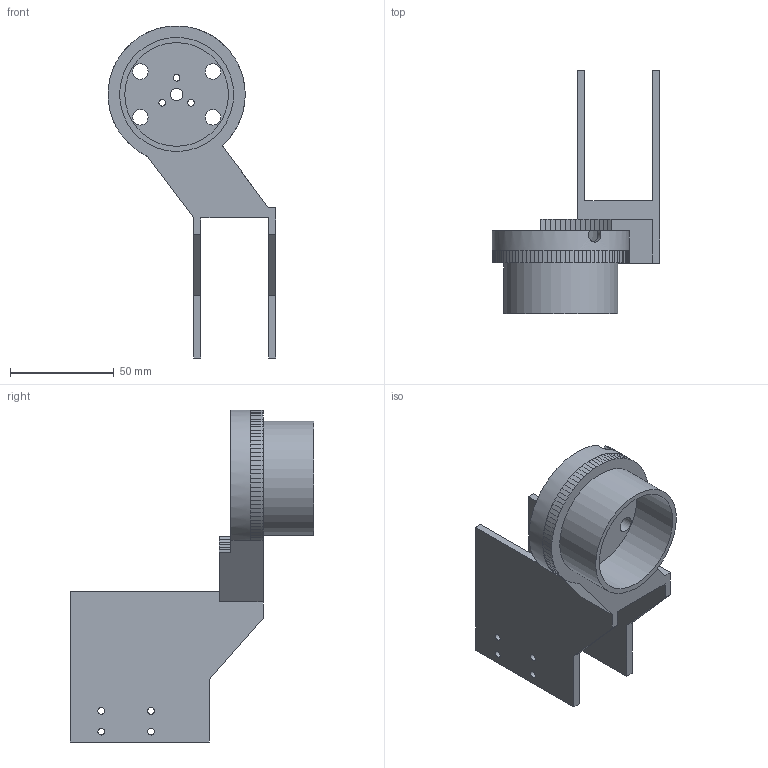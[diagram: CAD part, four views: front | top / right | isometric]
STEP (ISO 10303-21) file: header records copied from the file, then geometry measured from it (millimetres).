
FILE_DESCRIPTION(('Open CASCADE Model'),'2;1');
FILE_NAME('Open CASCADE Shape Model','2026-10-15T21:05:20',('Author'),( 'Open CASCADE'),'Open CASCADE STEP processor 7.9','Open CASCADE 7.9' ,'Unknown');
FILE_SCHEMA(('AUTOMOTIVE_DESIGN { 1 0 10303 214 1 1 1 1 }'));
Length unit declared in the file: millimetre
Products named in the file (1): Open CASCADE STEP translator 7.9 4
Bounding box: 80.8 x 117.5 x 160 mm (x, y, z)
Volume: 99210.2 mm3; surface area: 49515.4 mm2
Topology: 1 solids, 1 shells, 220 faces, 490 edges, 275 vertices
Faces by surface type: plane 198, cylinder 22
Full cylindrical faces by diameter (mm): 3.2 x3, 3.3 x8, 6 x1, 7.5 x4, 25 x1, 50 x1, 55 x1, 60 x1
Entity records: 12847 total; most frequent: CARTESIAN_POINT 2858, DIRECTION 1872, LINE 1105, VECTOR 1105, ORIENTED_EDGE 980, PCURVE 980, DEFINITIONAL_REPRESENTATION 980, EDGE_CURVE 490
